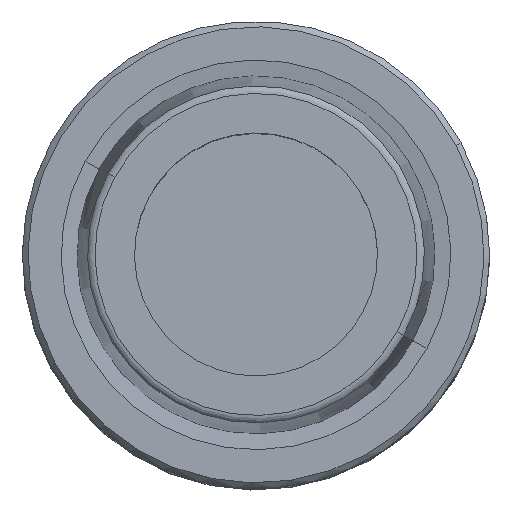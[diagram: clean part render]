
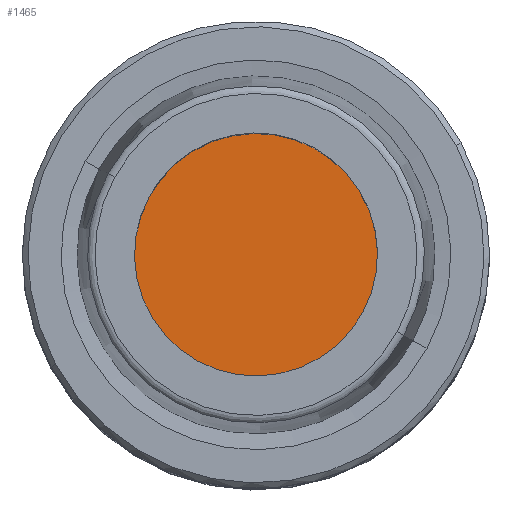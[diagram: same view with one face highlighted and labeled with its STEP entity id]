
A CAD part, top view. The second image highlights one B-rep face of the part: STEP entity #1465.
In plain terms, the highlighted planar face has unit normal (0, 0, 1).
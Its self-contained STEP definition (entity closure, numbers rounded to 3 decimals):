
#1420=AXIS2_PLACEMENT_3D('Circle Axis2P3D',#1418,#1419,$) ;
#1446=AXIS2_PLACEMENT_3D('Circle Axis2P3D',#1444,#1445,$) ;
#1459=AXIS2_PLACEMENT_3D('Plane Axis2P3D',#1456,#1457,#1458) ;
#1418=CARTESIAN_POINT('Axis2P3D Location',(0.,0.,-10.)) ;
#1422=CARTESIAN_POINT('Vertex',(-11.409,6.233,-10.)) ;
#1424=CARTESIAN_POINT('Vertex',(11.409,-6.233,-10.)) ;
#1444=CARTESIAN_POINT('Axis2P3D Location',(0.,0.,-10.)) ;
#1456=CARTESIAN_POINT('Axis2P3D Location',(-11.8,0.,-10.)) ;
#1419=DIRECTION('Axis2P3D Direction',(0.,0.,-1.)) ;
#1445=DIRECTION('Axis2P3D Direction',(0.,0.,-1.)) ;
#1457=DIRECTION('Axis2P3D Direction',(0.,0.,-1.)) ;
#1458=DIRECTION('Axis2P3D XDirection',(0.,1.,0.)) ;
#1462=ORIENTED_EDGE('',*,*,#1426,.T.) ;
#1463=ORIENTED_EDGE('',*,*,#1448,.T.) ;
#1465=ADVANCED_FACE('NOCUT',(#1464),#1460,.F.) ;
#1421=CIRCLE('generated circle',#1420,13.) ;
#1447=CIRCLE('generated circle',#1446,13.) ;
#1426=EDGE_CURVE('',#1423,#1425,#1421,.F.) ;
#1448=EDGE_CURVE('',#1425,#1423,#1447,.F.) ;
#1461=EDGE_LOOP('',(#1462,#1463)) ;
#1464=FACE_OUTER_BOUND('',#1461,.T.) ;
#1460=PLANE('',#1459) ;
#1423=VERTEX_POINT('',#1422) ;
#1425=VERTEX_POINT('',#1424) ;
